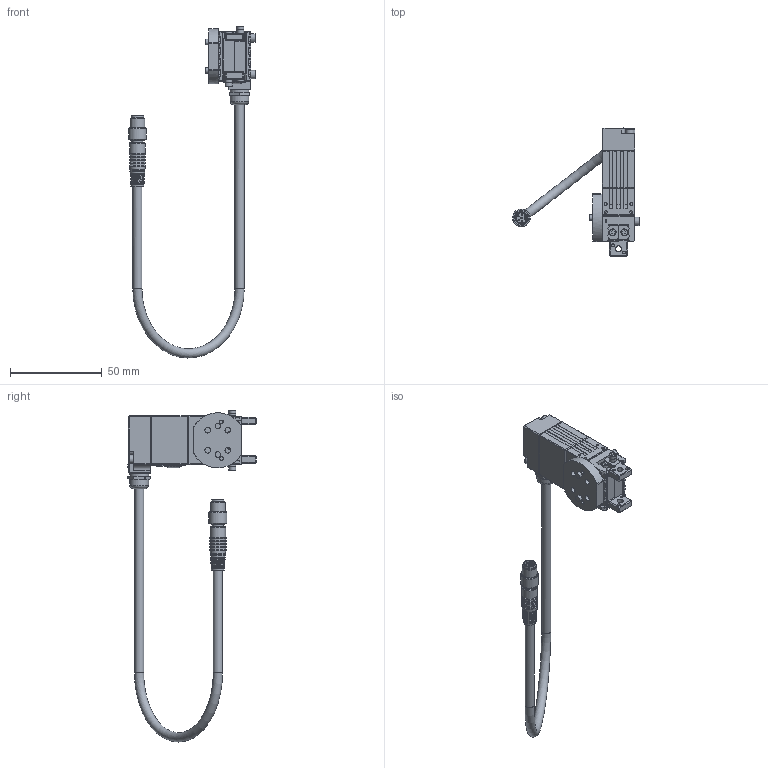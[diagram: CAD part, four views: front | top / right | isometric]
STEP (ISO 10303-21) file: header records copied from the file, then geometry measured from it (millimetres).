
FILE_DESCRIPTION(/* description */ (''),/* implementation_level */ '2;1');
FILE_NAME(/* name */ 'C:\SVN\Mechanical\Meca500\Meca500 Step files\MECA500 STEP FILES V3\Gripper.stp',/* time_stamp */ '2018-03-12T15:07:54-04:00',/* author */ ('Jonathan'),/* organization */ (''),/* preprocessor_version */ 'ST-DEVELOPER v16.13',/* originating_system */ 'Autodesk Inventor 2018',/* authorisation */ '');
FILE_SCHEMA (('AUTOMOTIVE_DESIGN { 1 0 10303 214 3 1 1 }'));
Length unit declared in the file: metre
Products named in the file (1): Gripper
Bounding box: 69.27 x 70.13 x 181.13 mm (x, y, z)
Volume: 39907.8 mm3; surface area: 17911.5 mm2
Topology: 4 solids, 13 shells, 1290 faces, 3341 edges, 2130 vertices
Faces by surface type: plane 685, bspline 227, cylinder 208, torus 92, cone 72, sphere 6
Full cylindrical faces by diameter (mm): 0.7 x6, 1.5 x4, 1.567 x8, 2.007 x2, 2.459 x2, 2.5 x2, 2.9 x1, 3 x5, 3.1 x4, 3.242 x2, 3.7 x2, 3.8 x7, 4.5 x4, 5 x4, 5.08 x1, 6 x1, 6.299 x1, 6.9 x1, 8 x1, 8.5 x5, 9.7 x1, 10.272 x2
Entity records: 60602 total; most frequent: CARTESIAN_POINT 29612, ORIENTED_EDGE 6292, DIRECTION 5602, EDGE_CURVE 3146, VERTEX_POINT 2062, LINE 1920, VECTOR 1920, AXIS2_PLACEMENT_3D 1841
